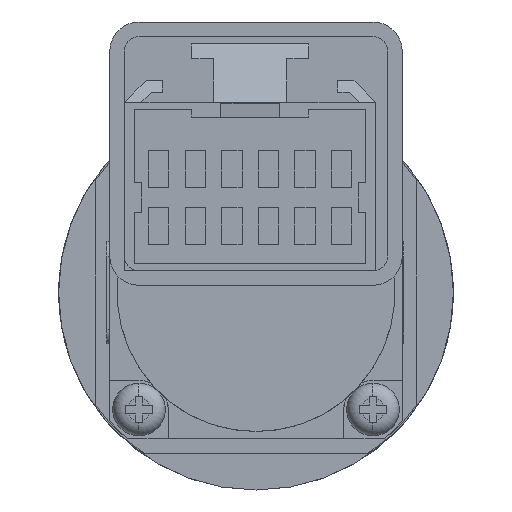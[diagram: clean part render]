
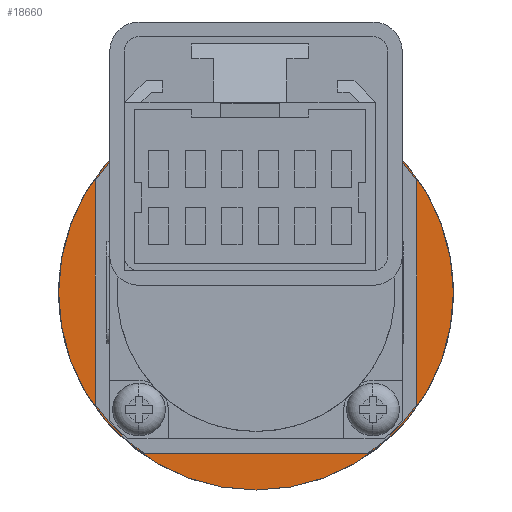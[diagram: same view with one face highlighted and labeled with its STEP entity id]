
A CAD part, front view. The second image highlights one B-rep face of the part: STEP entity #18660.
In plain terms, the highlighted planar face has unit normal (0, -1, 0).
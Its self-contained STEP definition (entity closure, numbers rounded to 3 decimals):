
#5420 = CARTESIAN_POINT ( 'NONE',  ( 0., 0., -13.5 ) ) ;
#5421 = DIRECTION ( 'NONE',  ( 0., 0., 1. ) ) ;
#5422 = DIRECTION ( 'NONE',  ( 0., 1., 0. ) ) ;
#5423 = CARTESIAN_POINT ( 'NONE',  ( 0., 0., 0. ) ) ;
#5424 = AXIS2_PLACEMENT_3D ( 'NONE', #5423, #5422, #5421 ) ;
#5425 = CIRCLE ( 'NONE', #5424, 13.5 ) ;
#5426 = CARTESIAN_POINT ( 'NONE',  ( 0., 0., 13.5 ) ) ;
#6221 = CARTESIAN_POINT ( 'NONE',  ( -11., 0., -6. ) ) ;
#6222 = DIRECTION ( 'NONE',  ( 0., 0., -1. ) ) ;
#6223 = VECTOR ( 'NONE', #6222, 1000. ) ;
#6224 = CARTESIAN_POINT ( 'NONE',  ( -11., 0., 7.652 ) ) ;
#6225 = LINE ( 'NONE', #6224, #6223 ) ;
#6226 = CARTESIAN_POINT ( 'NONE',  ( -11., 0., 6. ) ) ;
#6656 = CARTESIAN_POINT ( 'NONE',  ( 6., 0., -11. ) ) ;
#6657 = DIRECTION ( 'NONE',  ( 1., 0., 0. ) ) ;
#6658 = VECTOR ( 'NONE', #6657, 1000. ) ;
#6659 = CARTESIAN_POINT ( 'NONE',  ( -7.652, 0., -11. ) ) ;
#6660 = LINE ( 'NONE', #6659, #6658 ) ;
#6661 = CARTESIAN_POINT ( 'NONE',  ( -6., 0., -11. ) ) ;
#8962 = CARTESIAN_POINT ( 'NONE',  ( 8., 0., 6. ) ) ;
#8963 = DIRECTION ( 'NONE',  ( 0., 0., 1. ) ) ;
#8964 = DIRECTION ( 'NONE',  ( 0., 1., 0. ) ) ;
#8965 = CARTESIAN_POINT ( 'NONE',  ( 8., 0., 8. ) ) ;
#8966 = AXIS2_PLACEMENT_3D ( 'NONE', #8965, #8964, #8963 ) ;
#8967 = CIRCLE ( 'NONE', #8966, 2. ) ;
#9005 = FACE_OUTER_BOUND ( 'NONE', #18705, .T. ) ;
#9006 = FACE_BOUND ( 'NONE', #18661, .T. ) ;
#9007 = CARTESIAN_POINT ( 'NONE',  ( 6., 0., -8. ) ) ;
#9008 = DIRECTION ( 'NONE',  ( 0., 0., -1. ) ) ;
#9009 = DIRECTION ( 'NONE',  ( 0., 1., 0. ) ) ;
#9010 = CARTESIAN_POINT ( 'NONE',  ( 8., 0., -8. ) ) ;
#9011 = AXIS2_PLACEMENT_3D ( 'NONE', #9010, #9009, #9008 ) ;
#9012 = CIRCLE ( 'NONE', #9011, 2. ) ;
#9013 = CARTESIAN_POINT ( 'NONE',  ( 8., 0., -6. ) ) ;
#9014 = DIRECTION ( 'NONE',  ( 1., 0., 0. ) ) ;
#9015 = VECTOR ( 'NONE', #9014, 1000. ) ;
#9016 = CARTESIAN_POINT ( 'NONE',  ( 8., 0., -6. ) ) ;
#9017 = LINE ( 'NONE', #9016, #9015 ) ;
#9018 = CARTESIAN_POINT ( 'NONE',  ( 11., 0., -6. ) ) ;
#9019 = DIRECTION ( 'NONE',  ( 0., 0., 1. ) ) ;
#9020 = VECTOR ( 'NONE', #9019, 1000. ) ;
#9022 = CARTESIAN_POINT ( 'NONE',  ( 11., 0., 7.652 ) ) ;
#9023 = LINE ( 'NONE', #9022, #9020 ) ;
#9024 = CARTESIAN_POINT ( 'NONE',  ( 11., 0., 6. ) ) ;
#9025 = DIRECTION ( 'NONE',  ( -1., 0., 0. ) ) ;
#9026 = VECTOR ( 'NONE', #9025, 1000. ) ;
#9027 = CARTESIAN_POINT ( 'NONE',  ( 8., 0., 6. ) ) ;
#9028 = LINE ( 'NONE', #9027, #9026 ) ;
#9033 = CARTESIAN_POINT ( 'NONE',  ( 6., 0., 8. ) ) ;
#9034 = DIRECTION ( 'NONE',  ( 0., 0., 1. ) ) ;
#9035 = VECTOR ( 'NONE', #9034, 1000. ) ;
#9036 = CARTESIAN_POINT ( 'NONE',  ( 6., 0., 8. ) ) ;
#9037 = LINE ( 'NONE', #9036, #9035 ) ;
#9038 = CARTESIAN_POINT ( 'NONE',  ( 6., 0., 11. ) ) ;
#9039 = DIRECTION ( 'NONE',  ( -1., 0., 0. ) ) ;
#9040 = VECTOR ( 'NONE', #9039, 1000. ) ;
#9041 = CARTESIAN_POINT ( 'NONE',  ( -7.652, 0., 11. ) ) ;
#9043 = LINE ( 'NONE', #9041, #9040 ) ;
#9044 = CARTESIAN_POINT ( 'NONE',  ( -6., 0., 8. ) ) ;
#9045 = CARTESIAN_POINT ( 'NONE',  ( -6., 0., 11. ) ) ;
#9046 = DIRECTION ( 'NONE',  ( 0., 0., -1. ) ) ;
#9047 = VECTOR ( 'NONE', #9046, 1000. ) ;
#9048 = CARTESIAN_POINT ( 'NONE',  ( -6., 0., 8. ) ) ;
#9049 = LINE ( 'NONE', #9048, #9047 ) ;
#9050 = DIRECTION ( 'NONE',  ( 0., 0., 1. ) ) ;
#9051 = DIRECTION ( 'NONE',  ( 0., 1., 0. ) ) ;
#9052 = CARTESIAN_POINT ( 'NONE',  ( 0., 0., 0. ) ) ;
#9053 = AXIS2_PLACEMENT_3D ( 'NONE', #9052, #9051, #9050 ) ;
#9054 = PLANE ( 'NONE',  #9053 ) ;
#9154 = DIRECTION ( 'NONE',  ( 0., 0., 1. ) ) ;
#9155 = DIRECTION ( 'NONE',  ( 0., 1., 0. ) ) ;
#9156 = CARTESIAN_POINT ( 'NONE',  ( 0., 0., 0. ) ) ;
#9157 = AXIS2_PLACEMENT_3D ( 'NONE', #9156, #9155, #9154 ) ;
#9158 = CIRCLE ( 'NONE', #9157, 13.5 ) ;
#9161 = DIRECTION ( 'NONE',  ( 0., 0., -1. ) ) ;
#9162 = DIRECTION ( 'NONE',  ( 0., 1., 0. ) ) ;
#9163 = CARTESIAN_POINT ( 'NONE',  ( -8., 0., 8. ) ) ;
#9164 = AXIS2_PLACEMENT_3D ( 'NONE', #9163, #9162, #9161 ) ;
#9165 = CIRCLE ( 'NONE', #9164, 2. ) ;
#9166 = CARTESIAN_POINT ( 'NONE',  ( -8., 0., 6. ) ) ;
#9167 = DIRECTION ( 'NONE',  ( -1., 0., 0. ) ) ;
#9168 = VECTOR ( 'NONE', #9167, 1000. ) ;
#9169 = CARTESIAN_POINT ( 'NONE',  ( -8., 0., 6. ) ) ;
#9170 = LINE ( 'NONE', #9169, #9168 ) ;
#9179 = CARTESIAN_POINT ( 'NONE',  ( -8., 0., -6. ) ) ;
#9180 = DIRECTION ( 'NONE',  ( 0., 0., 1. ) ) ;
#9181 = DIRECTION ( 'NONE',  ( 0., 1., 0. ) ) ;
#9182 = CARTESIAN_POINT ( 'NONE',  ( -8., 0., -8. ) ) ;
#9183 = AXIS2_PLACEMENT_3D ( 'NONE', #9182, #9181, #9180 ) ;
#9184 = CIRCLE ( 'NONE', #9183, 2. ) ;
#9185 = CARTESIAN_POINT ( 'NONE',  ( -6., 0., -8. ) ) ;
#9186 = DIRECTION ( 'NONE',  ( 0., 0., -1. ) ) ;
#9187 = VECTOR ( 'NONE', #9186, 1000. ) ;
#9188 = CARTESIAN_POINT ( 'NONE',  ( -6., 0., -8. ) ) ;
#9189 = LINE ( 'NONE', #9188, #9187 ) ;
#9190 = DIRECTION ( 'NONE',  ( 0., 0., 1. ) ) ;
#9191 = VECTOR ( 'NONE', #9190, 1000. ) ;
#9192 = CARTESIAN_POINT ( 'NONE',  ( 6., 0., -8. ) ) ;
#9197 = LINE ( 'NONE', #9192, #9191 ) ;
#9237 = DIRECTION ( 'NONE',  ( 1., 0., 0. ) ) ;
#9238 = VECTOR ( 'NONE', #9237, 1000. ) ;
#9239 = CARTESIAN_POINT ( 'NONE',  ( -8., 0., -6. ) ) ;
#9240 = LINE ( 'NONE', #9239, #9238 ) ;
#16921 = VERTEX_POINT ( 'NONE', #5426 ) ;
#16923 = EDGE_CURVE ( 'NONE', #16921, #16924, #5425, .T. ) ;
#16924 = VERTEX_POINT ( 'NONE', #5420 ) ;
#17272 = VERTEX_POINT ( 'NONE', #6226 ) ;
#17274 = EDGE_CURVE ( 'NONE', #17272, #17275, #6225, .T. ) ;
#17275 = VERTEX_POINT ( 'NONE', #6221 ) ;
#17454 = VERTEX_POINT ( 'NONE', #6661 ) ;
#17456 = EDGE_CURVE ( 'NONE', #17454, #17457, #6660, .T. ) ;
#17457 = VERTEX_POINT ( 'NONE', #6656 ) ;
#18641 = ORIENTED_EDGE ( 'NONE', *, *, #17274, .F. ) ;
#18642 = ORIENTED_EDGE ( 'NONE', *, *, #18701, .F. ) ;
#18643 = EDGE_CURVE ( 'NONE', #18644, #18671, #8967, .T. ) ;
#18644 = VERTEX_POINT ( 'NONE', #8962 ) ;
#18645 = ORIENTED_EDGE ( 'NONE', *, *, #18646, .F. ) ;
#18646 = EDGE_CURVE ( 'NONE', #18647, #18644, #9028, .T. ) ;
#18647 = VERTEX_POINT ( 'NONE', #9024 ) ;
#18648 = ORIENTED_EDGE ( 'NONE', *, *, #18649, .F. ) ;
#18649 = EDGE_CURVE ( 'NONE', #18650, #18647, #9023, .T. ) ;
#18650 = VERTEX_POINT ( 'NONE', #9018 ) ;
#18651 = ORIENTED_EDGE ( 'NONE', *, *, #18652, .F. ) ;
#18652 = EDGE_CURVE ( 'NONE', #18653, #18650, #9017, .T. ) ;
#18653 = VERTEX_POINT ( 'NONE', #9013 ) ;
#18654 = ORIENTED_EDGE ( 'NONE', *, *, #18655, .F. ) ;
#18655 = EDGE_CURVE ( 'NONE', #18656, #18653, #9012, .T. ) ;
#18656 = VERTEX_POINT ( 'NONE', #9007 ) ;
#18657 = ORIENTED_EDGE ( 'NONE', *, *, #18715, .F. ) ;
#18660 = ADVANCED_FACE ( 'NONE', ( #9006, #9005 ), #9054, .F. ) ;
#18661 = EDGE_LOOP ( 'NONE', ( #18662, #18666, #18669, #18672, #18645, #18648, #18651, #18654, #18657, #18716, #18717, #18720, #18723, #18641, #18642, #18703 ) ) ;
#18662 = ORIENTED_EDGE ( 'NONE', *, *, #18663, .F. ) ;
#18663 = EDGE_CURVE ( 'NONE', #18664, #18665, #9049, .T. ) ;
#18664 = VERTEX_POINT ( 'NONE', #9045 ) ;
#18665 = VERTEX_POINT ( 'NONE', #9044 ) ;
#18666 = ORIENTED_EDGE ( 'NONE', *, *, #18667, .F. ) ;
#18667 = EDGE_CURVE ( 'NONE', #18668, #18664, #9043, .T. ) ;
#18668 = VERTEX_POINT ( 'NONE', #9038 ) ;
#18669 = ORIENTED_EDGE ( 'NONE', *, *, #18670, .F. ) ;
#18670 = EDGE_CURVE ( 'NONE', #18671, #18668, #9037, .T. ) ;
#18671 = VERTEX_POINT ( 'NONE', #9033 ) ;
#18672 = ORIENTED_EDGE ( 'NONE', *, *, #18643, .F. ) ;
#18701 = EDGE_CURVE ( 'NONE', #18702, #17272, #9170, .T. ) ;
#18702 = VERTEX_POINT ( 'NONE', #9166 ) ;
#18703 = ORIENTED_EDGE ( 'NONE', *, *, #18704, .F. ) ;
#18704 = EDGE_CURVE ( 'NONE', #18665, #18702, #9165, .T. ) ;
#18705 = EDGE_LOOP ( 'NONE', ( #18706, #18708 ) ) ;
#18706 = ORIENTED_EDGE ( 'NONE', *, *, #18707, .F. ) ;
#18707 = EDGE_CURVE ( 'NONE', #16924, #16921, #9158, .T. ) ;
#18708 = ORIENTED_EDGE ( 'NONE', *, *, #16923, .F. ) ;
#18715 = EDGE_CURVE ( 'NONE', #17457, #18656, #9197, .T. ) ;
#18716 = ORIENTED_EDGE ( 'NONE', *, *, #17456, .F. ) ;
#18717 = ORIENTED_EDGE ( 'NONE', *, *, #18718, .F. ) ;
#18718 = EDGE_CURVE ( 'NONE', #18719, #17454, #9189, .T. ) ;
#18719 = VERTEX_POINT ( 'NONE', #9185 ) ;
#18720 = ORIENTED_EDGE ( 'NONE', *, *, #18721, .F. ) ;
#18721 = EDGE_CURVE ( 'NONE', #18722, #18719, #9184, .T. ) ;
#18722 = VERTEX_POINT ( 'NONE', #9179 ) ;
#18723 = ORIENTED_EDGE ( 'NONE', *, *, #18724, .F. ) ;
#18724 = EDGE_CURVE ( 'NONE', #17275, #18722, #9240, .T. ) ;
